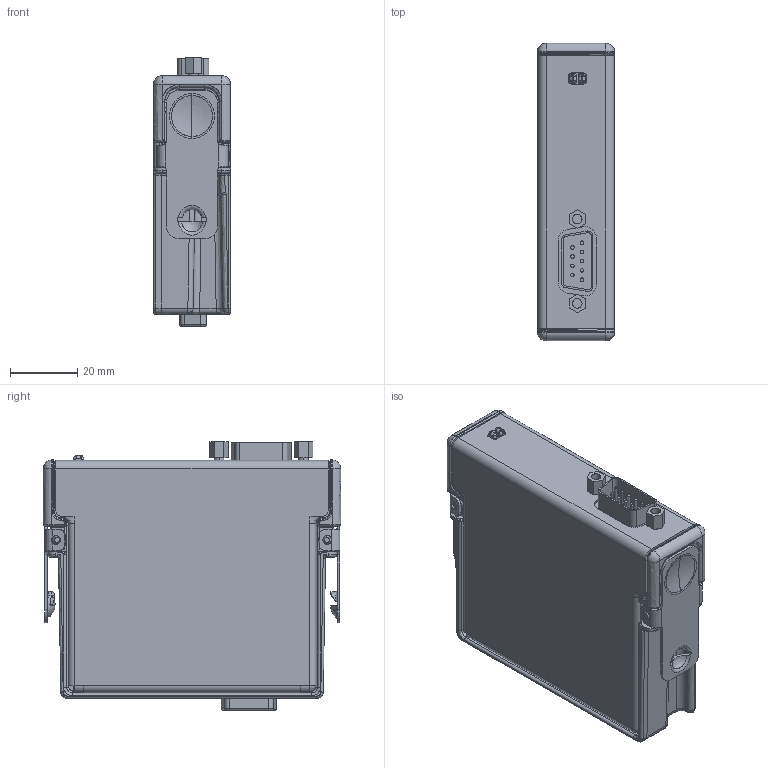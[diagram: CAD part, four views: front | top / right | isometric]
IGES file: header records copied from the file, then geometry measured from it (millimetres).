
Start section:  PTC IGES file: cu_mod_crio_db9.igs
Global section: file name: cu_mod_crio_db9.igs; native system: Pro/ENGINEER by Parametric Technology Corporation; preprocessor: 2010230; author: talbott; organization: Unknown; date: 20120329.101153; units: inch
Bounding box: 22.86 x 88.11 x 79.63 mm (x, y, z)
Surface area: 47813.3 mm2 (no closed solid volume)
Topology: 0 solids, 0 shells, 1471 faces, 6958 edges, 6934 vertices
Faces by surface type: bspline 795, revolution 673, extrusion 3
